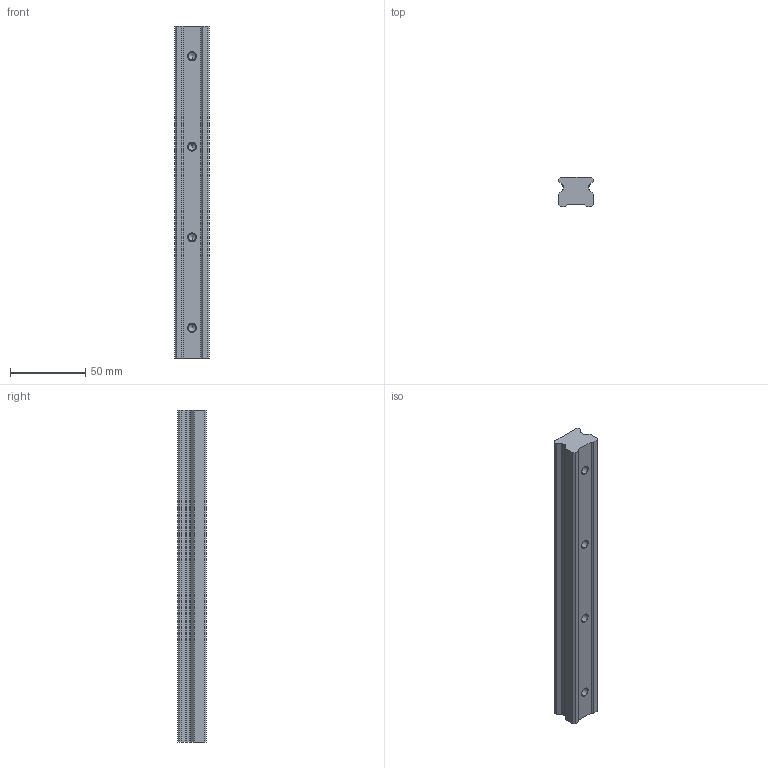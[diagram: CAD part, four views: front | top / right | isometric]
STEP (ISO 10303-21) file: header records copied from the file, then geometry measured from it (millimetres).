
FILE_DESCRIPTION (( 'STEP AP203' ), '1' );
FILE_NAME ('L1016.BRF25-0220.step', '2019-06-13T08:34:04', ( '' ), ( '' ), 'SwSTEP 2.0', 'SolidWorks 2017', '' );
FILE_SCHEMA (( 'CONFIG_CONTROL_DESIGN' ));
Length unit declared in the file: millimetre
Products named in the file (1): L1016.BRF25-0220
Bounding box: 23 x 19.2 x 220 mm (x, y, z)
Volume: 83871.1 mm3; surface area: 21050 mm2
Topology: 1 solids, 1 shells, 54 faces, 136 edges, 84 vertices
Faces by surface type: plane 26, cylinder 20, cone 8
Entity records: 1637 total; most frequent: DIRECTION 278, CARTESIAN_POINT 267, ORIENTED_EDGE 256, EDGE_CURVE 128, AXIS2_PLACEMENT_3D 95, VECTOR 88, LINE 88, VERTEX_POINT 84
